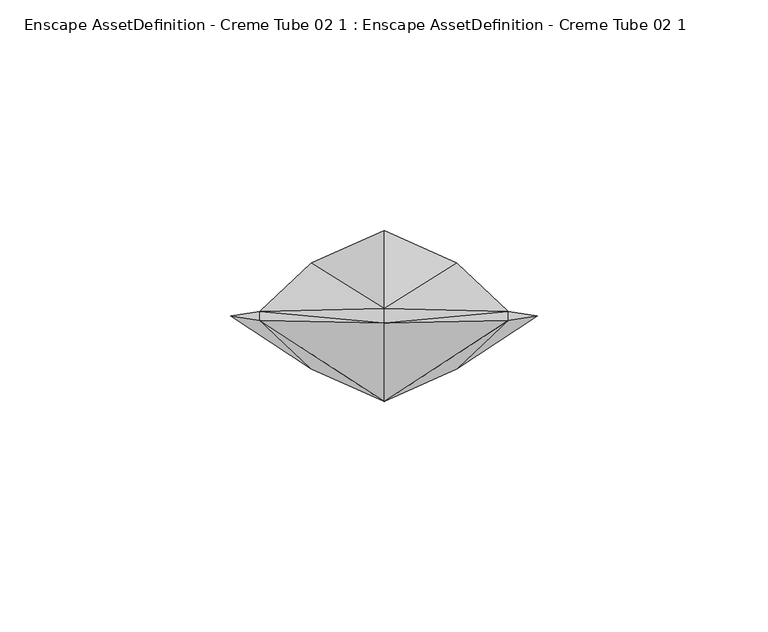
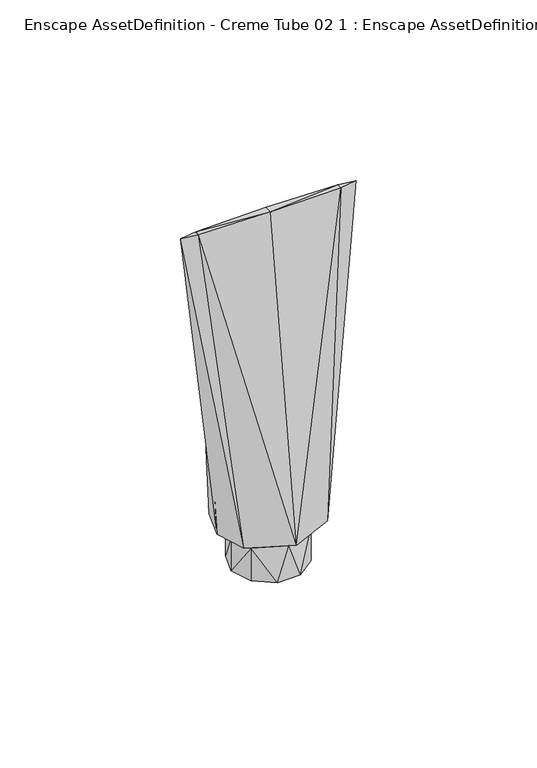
"""IFC4 building model written with IfcOpenShell, lengths in millimetres: geographic element geometry, Enscape AssetDefinition - Creme Tube 02 1 : Enscape AssetDefinition - Creme Tube 02 1."""

import ifcopenshell
import ifcopenshell.guid

model = None  # the IFC model being written
_history = None  # IfcOwnerHistory: only IFC2X3 demands one
_inside = {}  # id of a spatial element -> (the spatial element, [elements in it])
_under = {}  # id of a project, library or spatial element -> (it, [spatial elements below it])
_declared = {}  # id of a project -> (the project, [libraries it declares])
_typed = {}  # id of a type object -> (the type object, [elements of that type])
_made_of = {}  # id of a material, layer set ... -> (it, [elements and type objects made of it])


def new_model(schema):
    """Start an empty IFC model of exactly this schema.

    Asked for "IFC4X3", IfcOpenShell would pick the latest addendum, in which some entities
    have other attributes; the version numbers below select the first issue.
    IFC2X3 requires an IfcOwnerHistory on every rooted entity: one is made here for all.
    """
    global model, _history
    if schema == "IFC4X3":
        model = ifcopenshell.file(schema_version=(4, 3, 0, 0))
    else:
        model = ifcopenshell.file(schema=schema)
    _inside.clear()
    _under.clear()
    _declared.clear()
    _typed.clear()
    _made_of.clear()
    _history = None
    if model.schema == "IFC2X3":
        org = make("IfcOrganization", Name="unknown")
        user = make(
            "IfcPersonAndOrganization",
            ThePerson=make("IfcPerson", FamilyName="unknown"),
            TheOrganization=org,
        )
        app = make(
            "IfcApplication",
            ApplicationDeveloper=org,
            Version="unknown",
            ApplicationFullName="unknown",
            ApplicationIdentifier="unknown",
        )
        _history = make(
            "IfcOwnerHistory",
            OwningUser=user,
            OwningApplication=app,
            ChangeAction="ADDED",
            CreationDate=0,
        )
    return model


def make(cls, **values):
    """One entity of the class cls with the attributes given. An attribute that is None is left unset."""
    return model.create_entity(
        cls, **{name: value for name, value in values.items() if value is not None}
    )


def rooted(cls, **values):
    """An entity with a GlobalId (a new one), such as an element, a storey or a relation."""
    return make(cls, GlobalId=ifcopenshell.guid.new(), OwnerHistory=_history, **values)


def si_unit(unit_type, name, prefix=None):
    """IfcSIUnit, for example si_unit("LENGTHUNIT", "METRE", prefix="MILLI")."""
    return make("IfcSIUnit", UnitType=unit_type, Prefix=prefix, Name=name)


def assignment(units):
    """IfcUnitAssignment: the units of a project."""
    return None if units is None else make("IfcUnitAssignment", Units=units)


def point(xyz):
    """IfcCartesianPoint."""
    return None if xyz is None else make("IfcCartesianPoint", Coordinates=xyz)


def direction(xyz):
    """IfcDirection."""
    return None if xyz is None else make("IfcDirection", DirectionRatios=xyz)


def frame(location, z_axis=None, x_axis=None):
    """IfcAxis2Placement3D, a coordinate frame: its origin and axes. An axis left out is left unset."""
    return make(
        "IfcAxis2Placement3D",
        Location=point(location),
        Axis=direction(z_axis),
        RefDirection=direction(x_axis),
    )


def origin():
    """The frame at (0, 0, 0) with its axes left unset."""
    return frame((0.0, 0.0, 0.0))


def place(relative_to, where):
    """IfcLocalPlacement: puts the frame where relative to a parent placement (None: the world)."""
    return make(
        "IfcLocalPlacement", PlacementRelTo=relative_to, RelativePlacement=where
    )


def context(
    kind, dimensions, precision=None, world=None, true_north=None, identifier=None
):
    """IfcGeometricRepresentationContext, for example the 3D "Model" context."""
    return make(
        "IfcGeometricRepresentationContext",
        ContextIdentifier=identifier,
        ContextType=kind,
        CoordinateSpaceDimension=dimensions,
        Precision=precision,
        WorldCoordinateSystem=world,
        TrueNorth=true_north,
    )


def project(units=None, contexts=None):
    """IfcProject with its units and contexts."""
    return rooted(
        "IfcProject",
        Name="project",
        RepresentationContexts=contexts,
        UnitsInContext=assignment(units),
    )


def spatial(cls, under=None, at=None, **own):
    """A site, building, storey or space (cls), placed at a placement, below another one or the project."""
    s = rooted(cls, ObjectPlacement=at, **own)
    if under is not None:
        _under.setdefault(under.id(), (under, []))[1].append(s)
    return s


def faces_of(points, faces, orient=None, outer=None):
    """IfcFace entities. A face is a list of loops; a loop is a list of indices into points, from 0.

    orient and outer hold one flag for each loop. By default every Orientation is true, the
    first loop of a face is its IfcFaceOuterBound and the others are IfcFaceBound.
    """
    made = []
    for i, loops in enumerate(faces):
        bounds = []
        for j, loop in enumerate(loops):
            is_outer = j == 0 if outer is None else outer[i][j]
            bounds.append(
                make(
                    "IfcFaceOuterBound" if is_outer else "IfcFaceBound",
                    Bound=make("IfcPolyLoop", Polygon=[points[k] for k in loop]),
                    Orientation=True if orient is None else orient[i][j],
                )
            )
        made.append(make("IfcFace", Bounds=bounds))
    return made


def faceted_brep(points, faces, orient=None, outer=None, voids=None):
    """IfcFacetedBrep: a solid bounded by flat faces; with voids (closed shells), ...WithVoids."""
    shared = [point(p) for p in points]
    hull = make("IfcClosedShell", CfsFaces=faces_of(shared, faces, orient, outer))
    if voids is None:
        return make("IfcFacetedBrep", Outer=hull)
    return make(
        "IfcFacetedBrepWithVoids",
        Outer=hull,
        Voids=[
            make(cls, CfsFaces=faces_of(shared, fs, o, b)) for cls, fs, o, b in voids
        ],
    )


def shape(context_of_items, identifier, shape_type, items):
    """IfcShapeRepresentation: the items that make up one representation, for example the "Body"."""
    return make(
        "IfcShapeRepresentation",
        ContextOfItems=context_of_items,
        RepresentationIdentifier=identifier,
        RepresentationType=shape_type,
        Items=items,
    )


def source(mapping_origin, context_of_items, identifier, shape_type, items):
    """IfcRepresentationMap: a shape defined once, which mapped items show again and again."""
    return make(
        "IfcRepresentationMap",
        MappingOrigin=mapping_origin,
        MappedRepresentation=shape(context_of_items, identifier, shape_type, items),
    )


def transform(
    local_origin,
    x_axis=None,
    y_axis=None,
    z_axis=None,
    scale=None,
    scale2=None,
    scale3=None,
    uniform=True,
):
    """IfcCartesianTransformationOperator3D, or its non-uniform kind. x_axis, y_axis, z_axis: its Axis1, 2, 3."""
    if uniform:
        return make(
            "IfcCartesianTransformationOperator3D",
            Axis1=direction(x_axis),
            Axis2=direction(y_axis),
            LocalOrigin=point(local_origin),
            Scale=scale,
            Axis3=direction(z_axis),
        )
    return make(
        "IfcCartesianTransformationOperator3DnonUniform",
        Axis1=direction(x_axis),
        Axis2=direction(y_axis),
        LocalOrigin=point(local_origin),
        Scale=scale,
        Axis3=direction(z_axis),
        Scale2=scale2,
        Scale3=scale3,
    )


def mapped(mapping_source, mapping_target):
    """IfcMappedItem: shows the shape of a source again, moved by a transform."""
    return make(
        "IfcMappedItem", MappingSource=mapping_source, MappingTarget=mapping_target
    )


def made_of(thing, what):
    """Note that an element or type object is made of a material, layer set ...; save() writes the relation."""
    if what is not None:
        _made_of.setdefault(what.id(), (what, []))[1].append(thing)
    return thing


def element(
    cls,
    number,
    at=None,
    inside=None,
    cuts=None,
    type_object=None,
    material=None,
    context=None,
    identifier="Body",
    shape_type=None,
    held_by="IfcProductDefinitionShape",
    body=None,
    shapes=None,
    **own,
):
    """One element of the class cls, such as IfcWall. Its Tag is "e" and its number.

    at: its placement. inside: the storey or other place that contains it. cuts: it is an
    opening in that element (IfcRelVoidsElement). A single representation is given by context,
    identifier, shape_type and body (its items); several are given by shapes. held_by: the class
    of the entity that holds the representations. save() writes the other relations.
    """
    e = rooted(cls, Tag="e%d" % number, ObjectPlacement=at, **own)
    if body is not None:
        shapes = [shape(context, identifier, shape_type, body)]
    if shapes is not None:
        e.Representation = make(held_by, Representations=shapes)
    if inside is not None:
        _inside.setdefault(inside.id(), (inside, []))[1].append(e)
    if cuts is not None:
        rooted(
            "IfcRelVoidsElement", RelatingBuildingElement=cuts, RelatedOpeningElement=e
        )
    if type_object is not None:
        _typed.setdefault(type_object.id(), (type_object, []))[1].append(e)
    return made_of(e, material)


def aggregate(whole, parts):
    """IfcRelAggregates: a whole, such as a stair, and the parts it consists of."""
    return rooted("IfcRelAggregates", RelatingObject=whole, RelatedObjects=parts)


def save(model, path):
    """Write the relations noted so far, then the file.

    IfcRelAggregates (storeys below a building ...), IfcRelContainedInSpatialStructure (elements
    in a storey), IfcRelDefinesByType, IfcRelAssociatesMaterial and IfcRelDeclares: one each for
    every whole, place, type object, material and project.
    """
    for whole, parts in _under.values():
        aggregate(whole, parts)
    for where, things in _inside.values():
        rooted(
            "IfcRelContainedInSpatialStructure",
            RelatedElements=things,
            RelatingStructure=where,
        )
    for kind, things in _typed.values():
        rooted("IfcRelDefinesByType", RelatedObjects=things, RelatingType=kind)
    for what, things in _made_of.values():
        rooted("IfcRelAssociatesMaterial", RelatedObjects=things, RelatingMaterial=what)
    for by, libraries in _declared.values():
        rooted("IfcRelDeclares", RelatingContext=by, RelatedDefinitions=libraries)
    model.write(path)


def enscape_assetdefinition_creme_tube_02_1_enscape_099a7565(model_context):
    return source(origin(), model_context, "Body", "Brep", [
        faceted_brep([(15.7944597, 11.4750909, 16.4672658), (14.1496435, 0.0, 13.1869828), (11.4474464, 8.3171744, 13.1869828), (19.5227358, 0.0, 16.4672658), (11.4474464, -8.3171744, 13.1869828), (11.4474464, 8.3171744, 0.0), (14.1496435, 0.0, 0.0), (15.7944597, -11.4750909, 16.4672658), (26.9179028, 0.970791, 139.6788359), (33.2723558, 0.0, 139.6788359), (0.0, -18.5673926, 16.4672658), (26.9179028, -0.970791, 139.6788359), (0.0, 1.5712341, 139.6788359), (0.0, -1.5712341, 139.6788359), (-26.9179028, -0.970791, 139.6788359), (-26.9179028, 0.970791, 139.6788359), (0.0, 18.5673926, 16.4672658), (-15.7944597, 11.4750909, 16.4672658), (-19.5227358, 0.0, 16.4672658), (-33.2723558, 0.0, 139.6788359), (-15.7944597, -11.4750909, 16.4672658), (-14.1496435, 0.0, 13.1869828), (-11.4474464, -8.3171744, 13.1869828), (-11.4474464, 8.3171744, 13.1869828), (-11.4474464, 8.3171744, 0.0), (-14.1496435, 0.0, 0.0), (0.0, 13.4573244, 13.1869828), (-4.3726247, 13.4573244, 0.0), (-11.4474464, -8.3171744, 0.0), (-4.3726247, -13.4573244, 0.0), (4.3726247, 13.4573244, 0.0), (11.4474464, -8.3171744, 0.0), (4.3726247, -13.4573244, 0.0), (0.0, -13.4573244, 13.1869828)], [[[0, 1, 2]], [[1, 0, 3]], [[3, 4, 1]], [[5, 1, 6]], [[1, 5, 2]], [[4, 6, 1]], [[4, 3, 7]], [[8, 3, 0]], [[3, 8, 9]], [[9, 7, 3]], [[10, 4, 7]], [[11, 10, 7]], [[7, 9, 11]], [[8, 11, 9]], [[0, 12, 8]], [[13, 8, 12]], [[8, 13, 11]], [[10, 11, 13]], [[14, 10, 13]], [[15, 13, 12]], [[13, 15, 14]], [[12, 0, 16]], [[12, 17, 15]], [[17, 12, 16]], [[15, 18, 19]], [[18, 15, 17]], [[14, 15, 19]], [[10, 14, 20]], [[19, 20, 14]], [[20, 19, 18]], [[17, 21, 18]], [[18, 22, 20]], [[22, 18, 21]], [[21, 17, 23]], [[16, 23, 17]], [[24, 21, 23]], [[21, 24, 25]], [[25, 22, 21]], [[23, 16, 26]], [[27, 23, 26]], [[23, 27, 24]], [[27, 25, 24]], [[22, 25, 28]], [[25, 29, 28]], [[5, 25, 27]], [[5, 29, 25]], [[27, 26, 30]], [[5, 27, 30]], [[16, 2, 26]], [[2, 30, 26]], [[30, 2, 5]], [[5, 6, 31]], [[5, 31, 29]], [[6, 4, 31]], [[4, 32, 31]], [[29, 31, 32]], [[4, 10, 33]], [[32, 4, 33]], [[32, 33, 29]], [[10, 22, 33]], [[22, 29, 33]], [[22, 10, 20]], [[29, 22, 28]], [[2, 16, 0]]]),
    ])


if __name__ == "__main__":
    model = new_model("IFC4")
    model_context = context("Model", 3, world=origin())
    ifc_project = project(units=[si_unit("LENGTHUNIT", "METRE", prefix="MILLI")], contexts=[model_context])
    site = spatial("IfcSite", under=ifc_project)
    building = spatial("IfcBuilding", under=site)
    placement = place(None, origin())
    enscape_assetdefinition_creme_tube_02_1_enscape_shape = enscape_assetdefinition_creme_tube_02_1_enscape_099a7565(model_context)
    element("IfcGeographicElement", 1, ObjectType="Enscape AssetDefinition - Creme Tube 02 1 : Enscape AssetDefinition - Creme Tube 02 1", at=placement, inside=building, context=model_context, shape_type="MappedRepresentation", body=[
        mapped(enscape_assetdefinition_creme_tube_02_1_enscape_shape, transform((0.0, 0.0, 0.0), x_axis=(1.0, 0.0, 0.0), y_axis=(0.0, 1.0, 0.0), z_axis=(0.0, 0.0, 1.0))),
    ])
    save(model, "model.ifc")
